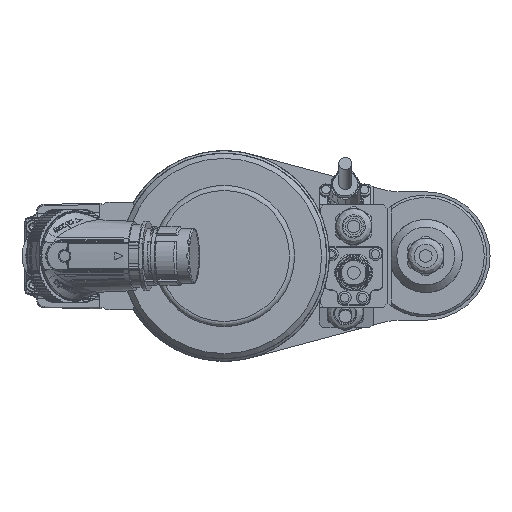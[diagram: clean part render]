
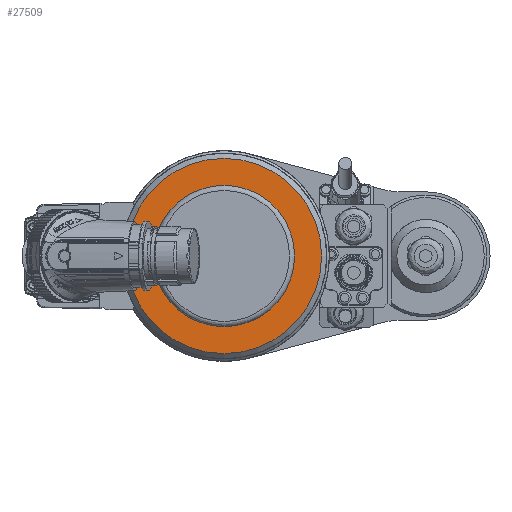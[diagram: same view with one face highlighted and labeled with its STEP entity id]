
A CAD part, left-side view. The second image highlights one B-rep face of the part: STEP entity #27509.
In plain terms, the highlighted planar face has unit normal (-1, 0, 0).
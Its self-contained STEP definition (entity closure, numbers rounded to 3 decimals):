
#3060 = CIRCLE ( 'NONE', #87546, 37.999 ) ;
#4935 = EDGE_CURVE ( 'NONE', #63085, #63085, #12515, .T. ) ;
#7479 = EDGE_LOOP ( 'NONE', ( #81535 ) ) ;
#10838 = DIRECTION ( 'NONE',  ( -1., 0., 0. ) ) ;
#12515 = CIRCLE ( 'NONE', #116281, 27.5 ) ;
#18616 = CARTESIAN_POINT ( 'NONE',  ( -357.5, 0., 0. ) ) ;
#22171 = EDGE_LOOP ( 'NONE', ( #68175 ) ) ;
#27509 = ADVANCED_FACE ( 'NONE', ( #29005, #29535 ), #64817, .T. ) ;
#27652 = DIRECTION ( 'NONE',  ( 0., 0., 1. ) ) ;
#29005 = FACE_OUTER_BOUND ( 'NONE', #7479, .T. ) ;
#29535 = FACE_BOUND ( 'NONE', #22171, .T. ) ;
#35131 = VERTEX_POINT ( 'NONE', #114315 ) ;
#54962 = CARTESIAN_POINT ( 'NONE',  ( -357.5, 27.5, 0. ) ) ;
#63085 = VERTEX_POINT ( 'NONE', #70974 ) ;
#64817 = PLANE ( 'NONE',  #84938 ) ;
#65304 = EDGE_CURVE ( 'NONE', #35131, #35131, #3060, .T. ) ;
#68175 = ORIENTED_EDGE ( 'NONE', *, *, #4935, .T. ) ;
#70974 = CARTESIAN_POINT ( 'NONE',  ( -357.5, 0., -27.5 ) ) ;
#72994 = DIRECTION ( 'NONE',  ( 0., 0., -1. ) ) ;
#73379 = DIRECTION ( 'NONE',  ( 1., 0., 0. ) ) ;
#73886 = CARTESIAN_POINT ( 'NONE',  ( -357.5, 0., 0. ) ) ;
#73956 = DIRECTION ( 'NONE',  ( 0., 0., 1. ) ) ;
#81535 = ORIENTED_EDGE ( 'NONE', *, *, #65304, .T. ) ;
#81672 = DIRECTION ( 'NONE',  ( -1., 0., 0. ) ) ;
#84938 = AXIS2_PLACEMENT_3D ( 'NONE', #54962, #10838, #73956 ) ;
#87546 = AXIS2_PLACEMENT_3D ( 'NONE', #18616, #81672, #27652 ) ;
#114315 = CARTESIAN_POINT ( 'NONE',  ( -357.5, 0., 37.999 ) ) ;
#116281 = AXIS2_PLACEMENT_3D ( 'NONE', #73886, #73379, #72994 ) ;
